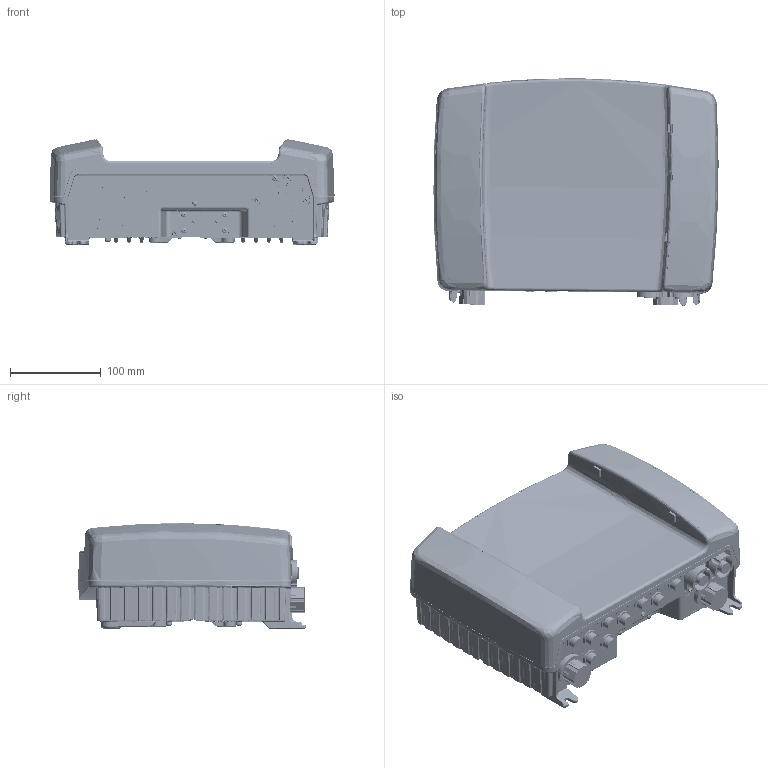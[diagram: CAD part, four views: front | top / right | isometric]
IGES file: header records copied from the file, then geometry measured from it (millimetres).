
Start section: SolidWorks IGES file using analytic representation for surfaces
Global section: file name: G:\EGK\USER\Sabine Krause\Public Group\meine_PDF\LXV400.TD.00000_SC1000.IGS; native system: SolidWorks 2011; preprocessor: SolidWorks 2011; author: skrause; date: 110920.093852; units: millimetre
Bounding box: 315.06 x 251.61 x 116.41 mm (x, y, z)
Surface area: 712467.6 mm2 (no closed solid volume)
Topology: 0 solids, 0 shells, 8415 faces, 77265 edges, 76810 vertices
Faces by surface type: bspline 5227, revolution 3188
